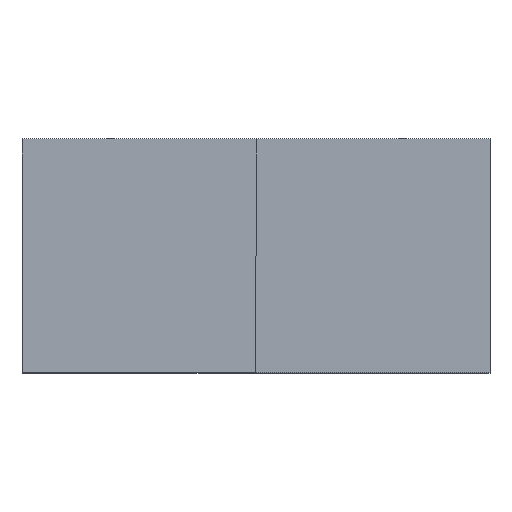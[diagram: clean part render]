
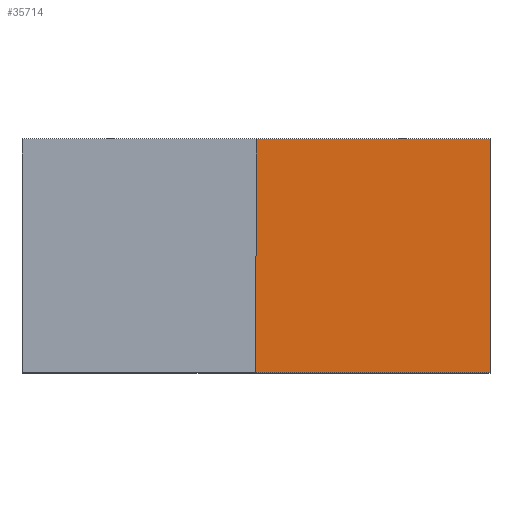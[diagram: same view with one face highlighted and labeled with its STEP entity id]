
A CAD part, top view. The second image highlights one B-rep face of the part: STEP entity #35714.
In plain terms, the highlighted planar face has unit normal (0, 0, 1).
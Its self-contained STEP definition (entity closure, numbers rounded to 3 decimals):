
#5493=PLANE('',#37224);
#6464=FACE_OUTER_BOUND('',#7934,.T.);
#7934=EDGE_LOOP('',(#21915,#21916,#21917,#21918));
#9584=LINE('',#48146,#12087);
#9591=LINE('',#48160,#12094);
#9592=LINE('',#48162,#12095);
#9593=LINE('',#48163,#12096);
#12087=VECTOR('',#39972,10.);
#12094=VECTOR('',#39983,10.);
#12095=VECTOR('',#39984,10.);
#12096=VECTOR('',#39985,10.);
#15864=VERTEX_POINT('',#48142);
#15866=VERTEX_POINT('',#48145);
#15869=VERTEX_POINT('',#48152);
#15872=VERTEX_POINT('',#48161);
#18235=EDGE_CURVE('',#15864,#15866,#9584,.T.);
#18242=EDGE_CURVE('',#15869,#15864,#9591,.T.);
#18243=EDGE_CURVE('',#15872,#15869,#9592,.T.);
#18244=EDGE_CURVE('',#15866,#15872,#9593,.T.);
#21915=ORIENTED_EDGE('',*,*,#18242,.F.);
#21916=ORIENTED_EDGE('',*,*,#18243,.F.);
#21917=ORIENTED_EDGE('',*,*,#18244,.F.);
#21918=ORIENTED_EDGE('',*,*,#18235,.F.);
#35714=ADVANCED_FACE('',(#6464),#5493,.T.);
#37224=AXIS2_PLACEMENT_3D('',#48159,#39981,#39982);
#39972=DIRECTION('',(1.,0.,0.));
#39981=DIRECTION('center_axis',(0.,0.,1.));
#39982=DIRECTION('ref_axis',(0.,-1.,0.));
#39983=DIRECTION('',(0.,1.,0.));
#39984=DIRECTION('',(-1.,0.,0.));
#39985=DIRECTION('',(0.,-1.,0.));
#48142=CARTESIAN_POINT('',(0.,80.,0.));
#48145=CARTESIAN_POINT('',(160.,80.,0.));
#48146=CARTESIAN_POINT('',(80.,80.,0.));
#48152=CARTESIAN_POINT('',(0.,-80.,0.));
#48159=CARTESIAN_POINT('Origin',(0.,0.,
0.));
#48160=CARTESIAN_POINT('',(0.,56.,0.));
#48161=CARTESIAN_POINT('',(160.,-80.,0.));
#48162=CARTESIAN_POINT('',(-80.,-80.,0.));
#48163=CARTESIAN_POINT('',(160.,-40.,0.));
